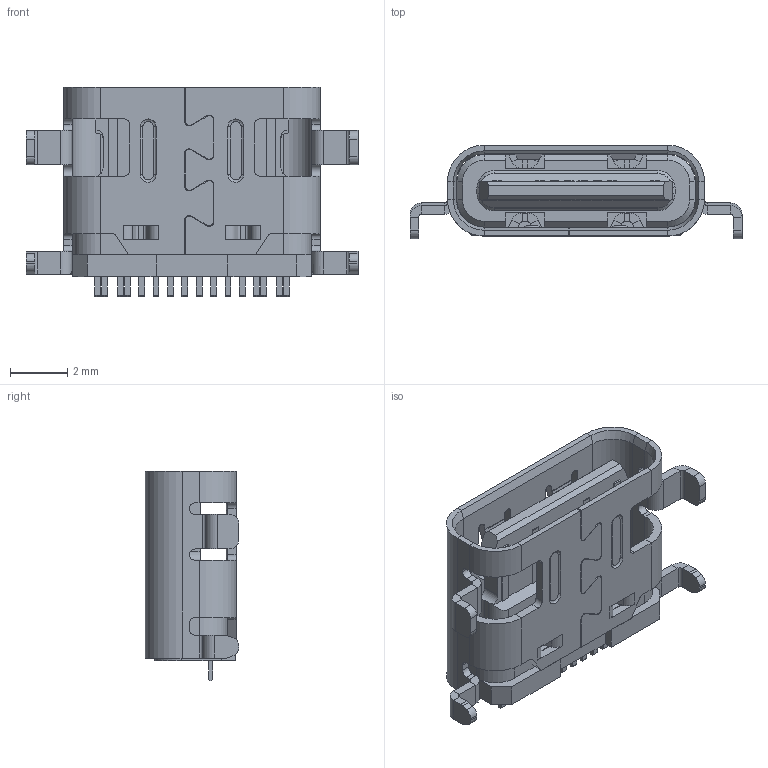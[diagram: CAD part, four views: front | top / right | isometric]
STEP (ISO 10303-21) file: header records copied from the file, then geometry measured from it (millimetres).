
FILE_DESCRIPTION((''),'2;1');
FILE_NAME('0-83D0001','2022-09-26T15:13:40',('asus'),(''),'CREO PARAMETRIC BY PTC INC, 2020053','CREO PARAMETRIC BY PTC INC, 2020053','');
FILE_SCHEMA(('AUTOMOTIVE_DESIGN { 1 0 10303 214 1 1 1 1 }'));
Length unit declared in the file: millimetre
Products named in the file (1): 0-83D0001
Bounding box: 11.55 x 3.25 x 7.28 mm (x, y, z)
Volume: 94.1 mm3; surface area: 428.9 mm2
Topology: 1 solids, 1 shells, 766 faces, 2035 edges, 1272 vertices
Faces by surface type: plane 560, cylinder 176, cone 18, torus 8, bspline 4
Entity records: 25646 total; most frequent: CARTESIAN_POINT 4347, ORIENTED_EDGE 4070, DIRECTION 3869, EDGE_CURVE 2035, VECTOR 1617, LINE 1617, VERTEX_POINT 1272, AXIS2_PLACEMENT_3D 1126
